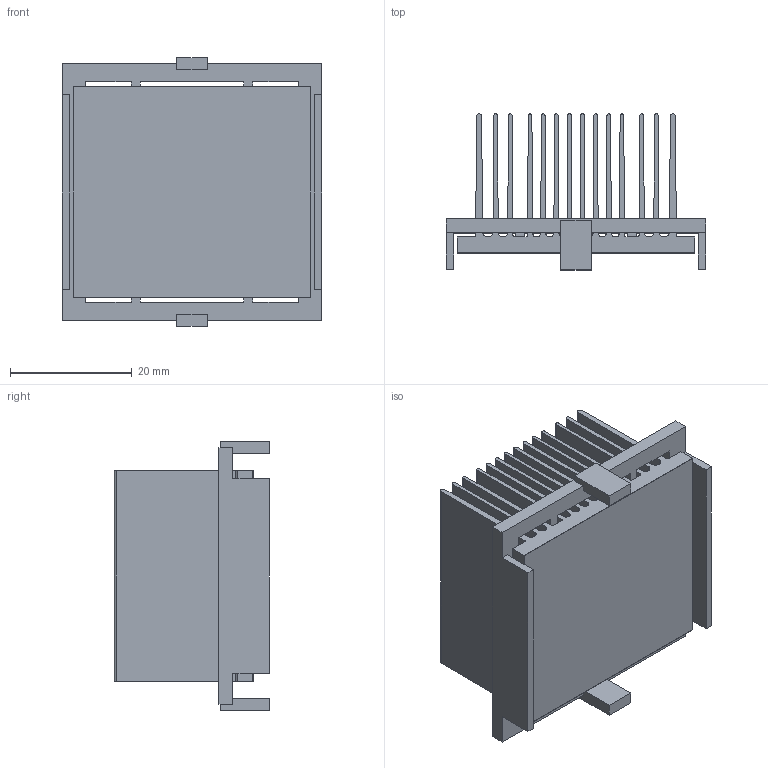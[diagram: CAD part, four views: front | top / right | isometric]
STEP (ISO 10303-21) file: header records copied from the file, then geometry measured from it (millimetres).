
FILE_DESCRIPTION (( 'STEP AP214' ), '1' );
FILE_NAME ('INH40001-23-2.6K30.STEP', '2023-02-20T19:48:27', ( '' ), ( '' ), 'SwSTEP 2.0', 'SolidWorks 2020', '' );
FILE_SCHEMA (( 'AUTOMOTIVE_DESIGN' ));
Length unit declared in the file: millimetre
Products named in the file (1): INH40001-23-2.6K30
Bounding box: 42.7 x 25.66 x 44.2 mm (x, y, z)
Volume: 13107.4 mm3; surface area: 28331.2 mm2
Topology: 3 solids, 3 shells, 150 faces, 432 edges, 288 vertices
Faces by surface type: plane 108, cylinder 42
Entity records: 6606 total; most frequent: CARTESIAN_POINT 871, ORIENTED_EDGE 864, DIRECTION 818, EDGE_CURVE 432, VECTOR 348, LINE 348, VERTEX_POINT 288, AXIS2_PLACEMENT_3D 235
